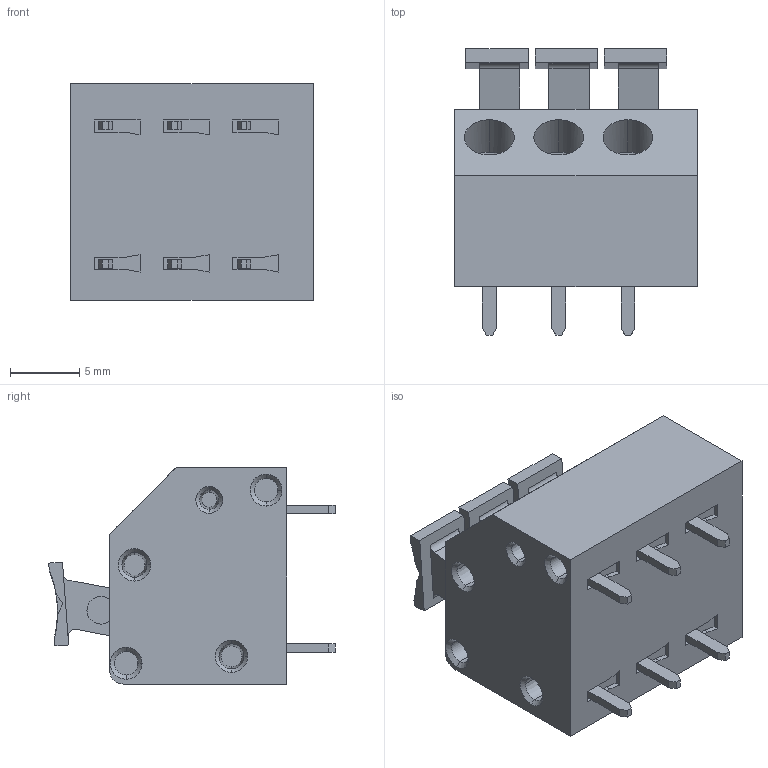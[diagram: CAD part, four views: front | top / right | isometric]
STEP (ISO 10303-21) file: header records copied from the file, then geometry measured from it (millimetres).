
FILE_DESCRIPTION (( 'STEP AP214' ), '1' );
FILE_NAME ('874-DR-03.STEP', '2007-11-27T20:44:57', ( 'weco' ), ( 'weco' ), 'SwSTEP 2.0', 'SolidWorks 2007', '' );
FILE_SCHEMA (( 'AUTOMOTIVE_DESIGN' ));
Length unit declared in the file: millimetre
Products named in the file (1): 874-DR-03
Bounding box: 17.5 x 20.69 x 15.6 mm (x, y, z)
Volume: 3140.8 mm3; surface area: 2582 mm2
Topology: 20 solids, 20 shells, 621 faces, 1530 edges, 976 vertices
Faces by surface type: plane 330, cone 150, cylinder 123, bspline 18
Entity records: 19088 total; most frequent: CARTESIAN_POINT 4118, DIRECTION 3060, ORIENTED_EDGE 3042, EDGE_CURVE 1521, AXIS2_PLACEMENT_3D 1056, VERTEX_POINT 976, VECTOR 948, LINE 948
